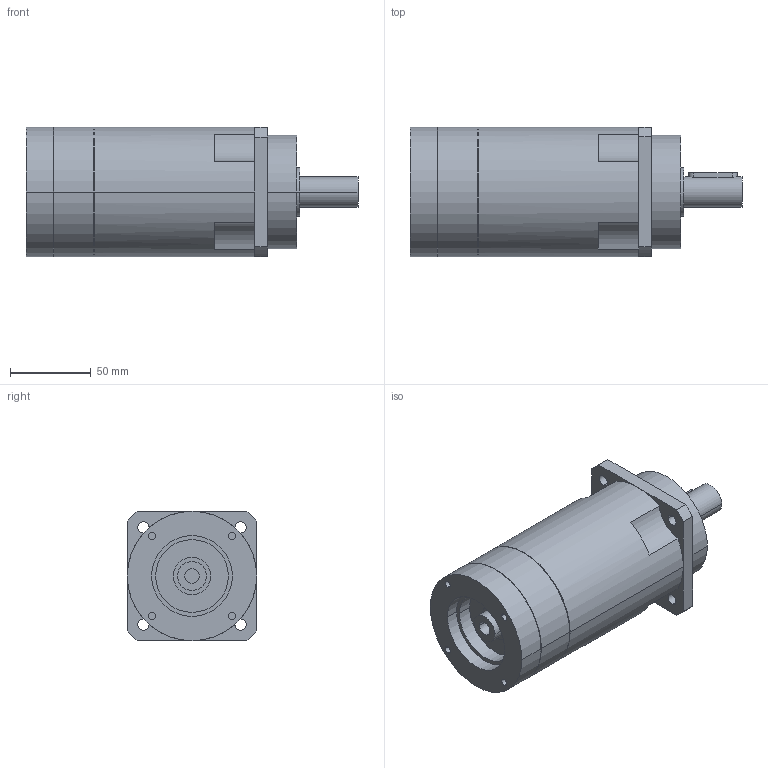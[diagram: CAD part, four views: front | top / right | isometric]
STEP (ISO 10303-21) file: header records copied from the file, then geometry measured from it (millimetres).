
FILE_DESCRIPTION(('CoCreate Modeling STEP Export'),'2;1');
FILE_NAME('GPR100_ig-48-64-80-100-120-144-180-216_19_B5_9_P15.stp','2014-08-26T13:05:14',(''),(''),'CoCreate Modeling STEP processor for AP214 (Solid Model)','CoCreate Modeling 16.00C 25-Feb-2009 (C) Parametric Technology GmbH','');
FILE_SCHEMA(('AUTOMOTIVE_DESIGN { 1 0 10303 214 1 1 1 1 }'));
Length unit declared in the file: millimetre
Products named in the file (2): GPR100_ig-48-64-80-100-120-144-180-216_19_B5_9_P15
Assembly tree (1 placements, depth 2):
  GPR100_ig-48-64-80-100-120-144-180-216_19_B5_9_P15
    GPR100_ig-48-64-80-100-120-144-180-216_19_B5_9_P15
Bounding box: 205.4 x 80 x 80 mm (x, y, z)
Volume: 801719.5 mm3; surface area: 63954.1 mm2
Topology: 1 solids, 1 shells, 99 faces, 258 edges, 178 vertices
Faces by surface type: cylinder 58, plane 35, cone 6
Entity records: 2684 total; most frequent: ORIENTED_EDGE 512, CARTESIAN_POINT 480, DIRECTION 386, EDGE_CURVE 256, VERTEX_POINT 178, AXIS2_PLACEMENT_3D 148, EDGE_LOOP 126, FACE_OUTER_BOUND 99
